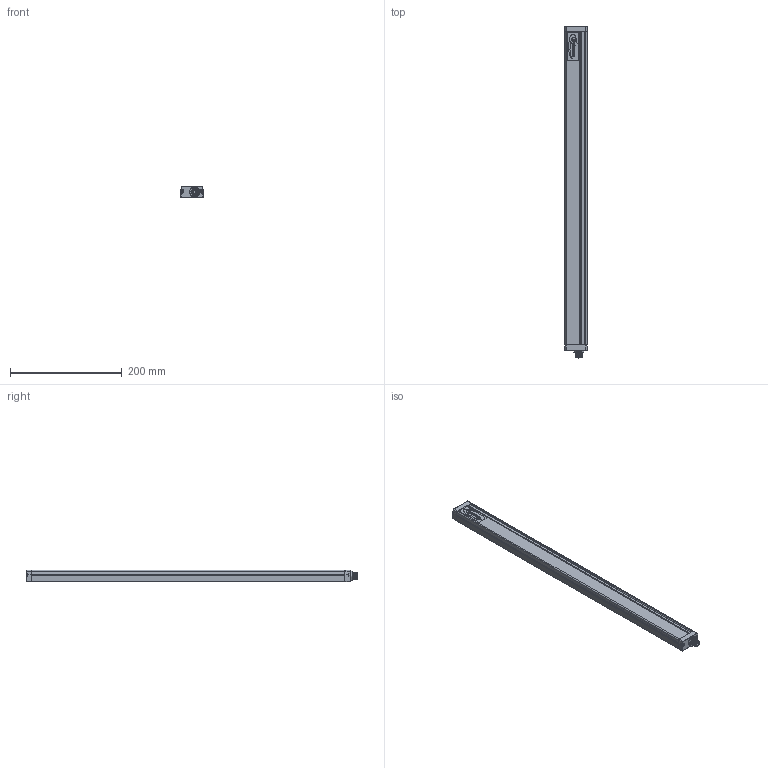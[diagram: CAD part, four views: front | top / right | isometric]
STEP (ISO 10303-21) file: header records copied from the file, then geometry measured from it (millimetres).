
FILE_DESCRIPTION(/* description */ (''),/* implementation_level */ '2;1');
FILE_NAME(/* name */ 'C:\Users\andre\SynologyDrive\Optoscan\Libreria Componenti\00 - Barriere\Barriera sorgente\Argo_560_RX.stp',/* time_stamp */ '2021-04-22T11:54:31+02:00',/* author */ ('andre'),/* organization */ (''),/* preprocessor_version */ 'ST-DEVELOPER v18',/* originating_system */ 'Autodesk Inventor 2020',/* authorisation */ '');
FILE_SCHEMA (('AUTOMOTIVE_DESIGN { 1 0 10303 214 3 1 1 }'));
Length unit declared in the file: millimetre
Products named in the file (1): Argo_560_RX
Bounding box: 40.5 x 593.3 x 20.75 mm (x, y, z)
Volume: 120451.8 mm3; surface area: 155276.1 mm2
Topology: 1 solids, 1 shells, 692 faces, 1898 edges, 1217 vertices
Faces by surface type: plane 319, cylinder 195, bspline 94, torus 70, cone 8, sphere 6
Full cylindrical faces by diameter (mm): 1 x4, 2.459 x4, 2.5 x4, 3 x4, 3.5 x4, 5.5 x4, 8 x1, 10.5 x2, 11.75 x9, 15.7 x1, 17.5 x1
Entity records: 28165 total; most frequent: CARTESIAN_POINT 10195, ORIENTED_EDGE 3778, DIRECTION 3387, EDGE_CURVE 1889, VERTEX_POINT 1217, AXIS2_PLACEMENT_3D 1183, LINE 1021, VECTOR 1021
